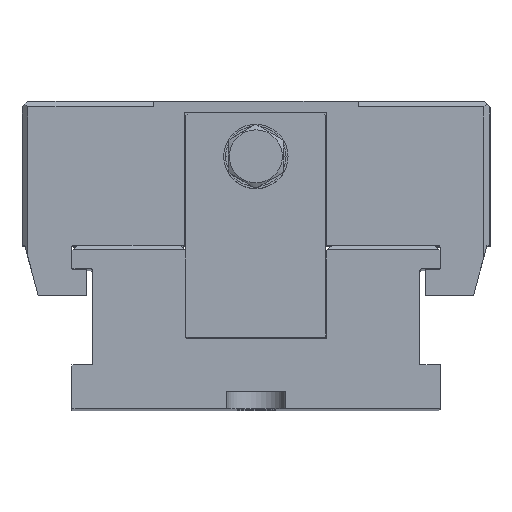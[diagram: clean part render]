
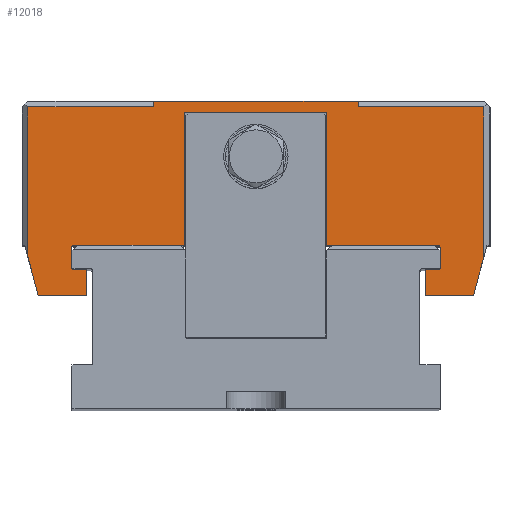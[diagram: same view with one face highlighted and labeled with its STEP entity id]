
A CAD part, top view. The second image highlights one B-rep face of the part: STEP entity #12018.
In plain terms, the highlighted planar face has unit normal (0, 0, 1) as drawn and (0, 0, -1) by its records, which use the part's own axes.
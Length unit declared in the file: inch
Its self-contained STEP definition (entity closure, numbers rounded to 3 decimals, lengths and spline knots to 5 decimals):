
#9185=DIRECTION('',(0.,1.,0.));
#9186=VECTOR('',#9185,0.0456);
#9187=CARTESIAN_POINT('',(0.02425,0.0319,-0.0585));
#9188=LINE('',#9187,#9186);
#9197=CARTESIAN_POINT('',(0.0625,0.0313,-0.0585));
#9198=DIRECTION('',(0.,0.,-1.));
#9199=DIRECTION('',(0.,1.,0.));
#9200=AXIS2_PLACEMENT_3D('',#9197,#9198,#9199);
#9202=CARTESIAN_POINT('',(0.0625,0.0243,-0.0585));
#9203=DIRECTION('',(0.,0.,-1.));
#9204=DIRECTION('',(1.,0.,0.));
#9205=AXIS2_PLACEMENT_3D('',#9202,#9203,#9204);
#9207=DIRECTION('',(-1.,0.,0.));
#9208=VECTOR('',#9207,0.0045);
#9209=CARTESIAN_POINT('',(0.0625,0.0238,-0.0585));
#9210=LINE('',#9209,#9208);
#9211=DIRECTION('',(0.259,0.966,0.));
#9212=VECTOR('',#9211,0.01374);
#9213=CARTESIAN_POINT('',(0.07444,0.0148,-0.0585));
#9214=LINE('',#9213,#9212);
#9215=DIRECTION('',(0.259,-0.966,0.));
#9216=VECTOR('',#9215,0.01374);
#9217=CARTESIAN_POINT('',(-0.078,0.02807,-0.0585));
#9218=LINE('',#9217,#9216);
#9219=CARTESIAN_POINT('',(-0.0625,0.0243,-0.0585));
#9220=DIRECTION('',(0.,0.,-1.));
#9221=DIRECTION('',(0.,-1.,0.));
#9222=AXIS2_PLACEMENT_3D('',#9219,#9220,#9221);
#9224=CARTESIAN_POINT('',(-0.0625,0.0313,-0.0585));
#9225=DIRECTION('',(0.,0.,-1.));
#9226=DIRECTION('',(-1.,0.,0.));
#9227=AXIS2_PLACEMENT_3D('',#9224,#9225,#9226);
#9229=DIRECTION('',(0.,1.,0.));
#9230=VECTOR('',#9229,0.0456);
#9231=CARTESIAN_POINT('',(-0.02425,0.0319,-0.0585));
#9232=LINE('',#9231,#9230);
#9233=DIRECTION('',(1.,0.,0.));
#9234=VECTOR('',#9233,0.0485);
#9235=CARTESIAN_POINT('',(-0.02425,0.0775,-0.0585));
#9236=LINE('',#9235,#9234);
#9237=DIRECTION('',(-1.,0.,0.));
#9238=VECTOR('',#9237,0.03375);
#9239=CARTESIAN_POINT('',(-0.02425,0.0319,-0.0585));
#9240=LINE('',#9239,#9238);
#9249=DIRECTION('',(-1.,0.,0.));
#9250=VECTOR('',#9249,0.03375);
#9251=CARTESIAN_POINT('',(0.058,0.0319,-0.0585));
#9252=LINE('',#9251,#9250);
#9307=DIRECTION('',(0.,-1.,0.));
#9308=VECTOR('',#9307,0.0001);
#9309=CARTESIAN_POINT('',(-0.058,0.0319,-0.0585));
#9310=LINE('',#9309,#9308);
#9324=DIRECTION('',(-1.,0.,0.));
#9325=VECTOR('',#9324,0.0045);
#9326=CARTESIAN_POINT('',(-0.058,0.0318,-0.0585));
#9327=LINE('',#9326,#9325);
#9446=DIRECTION('',(0.,-1.,0.));
#9447=VECTOR('',#9446,0.007);
#9448=CARTESIAN_POINT('',(-0.063,0.0313,-0.0585));
#9449=LINE('',#9448,#9447);
#9463=DIRECTION('',(1.,0.,0.));
#9464=VECTOR('',#9463,0.0045);
#9465=CARTESIAN_POINT('',(-0.0625,0.0238,-0.0585));
#9466=LINE('',#9465,#9464);
#9480=DIRECTION('',(0.,-1.,0.));
#9481=VECTOR('',#9480,0.009);
#9482=CARTESIAN_POINT('',(-0.058,0.0238,-0.0585));
#9483=LINE('',#9482,#9481);
#9488=DIRECTION('',(-1.,0.,0.));
#9489=VECTOR('',#9488,0.01644);
#9490=CARTESIAN_POINT('',(-0.058,0.0148,-0.0585));
#9491=LINE('',#9490,#9489);
#9508=DIRECTION('',(0.,1.,0.));
#9509=VECTOR('',#9508,0.05123);
#9510=CARTESIAN_POINT('',(-0.078,0.02807,-0.0585));
#9511=LINE('',#9510,#9509);
#9516=DIRECTION('',(1.,0.,0.));
#9517=VECTOR('',#9516,0.043);
#9518=CARTESIAN_POINT('',(-0.078,0.0793,-0.0585));
#9519=LINE('',#9518,#9517);
#9528=DIRECTION('',(0.,1.,0.));
#9529=VECTOR('',#9528,0.002);
#9530=CARTESIAN_POINT('',(-0.035,0.0793,-0.0585));
#9531=LINE('',#9530,#9529);
#9540=DIRECTION('',(1.,0.,0.));
#9541=VECTOR('',#9540,0.07);
#9542=CARTESIAN_POINT('',(-0.035,0.0813,-0.0585));
#9543=LINE('',#9542,#9541);
#9548=DIRECTION('',(0.,-1.,0.));
#9549=VECTOR('',#9548,0.002);
#9550=CARTESIAN_POINT('',(0.035,0.0813,-0.0585));
#9551=LINE('',#9550,#9549);
#9556=DIRECTION('',(1.,0.,0.));
#9557=VECTOR('',#9556,0.043);
#9558=CARTESIAN_POINT('',(0.035,0.0793,-0.0585));
#9559=LINE('',#9558,#9557);
#9568=DIRECTION('',(0.,-1.,0.));
#9569=VECTOR('',#9568,0.05123);
#9570=CARTESIAN_POINT('',(0.078,0.0793,-0.0585));
#9571=LINE('',#9570,#9569);
#9698=DIRECTION('',(0.,1.,0.));
#9699=VECTOR('',#9698,0.009);
#9700=CARTESIAN_POINT('',(0.058,0.0148,-0.0585));
#9701=LINE('',#9700,#9699);
#9718=DIRECTION('',(-1.,0.,0.));
#9719=VECTOR('',#9718,0.01644);
#9720=CARTESIAN_POINT('',(0.07444,0.0148,-0.0585));
#9721=LINE('',#9720,#9719);
#9823=DIRECTION('',(-1.,0.,0.));
#9824=VECTOR('',#9823,0.0045);
#9825=CARTESIAN_POINT('',(0.0625,0.0318,-0.0585));
#9826=LINE('',#9825,#9824);
#9844=DIRECTION('',(0.,1.,0.));
#9845=VECTOR('',#9844,0.007);
#9846=CARTESIAN_POINT('',(0.063,0.0243,-0.0585));
#9847=LINE('',#9846,#9845);
#9856=DIRECTION('',(0.,1.,0.));
#9857=VECTOR('',#9856,0.0001);
#9858=CARTESIAN_POINT('',(0.058,0.0318,-0.0585));
#9859=LINE('',#9858,#9857);
#11336=CARTESIAN_POINT('',(0.02425,0.0319,-0.0585));
#11337=CARTESIAN_POINT('',(0.02425,0.0775,-0.0585));
#11338=VERTEX_POINT('',#11336);
#11339=VERTEX_POINT('',#11337);
#11340=CARTESIAN_POINT('',(0.058,0.0319,-0.0585));
#11341=VERTEX_POINT('',#11340);
#11342=CARTESIAN_POINT('',(0.058,0.0318,-0.0585));
#11343=VERTEX_POINT('',#11342);
#11344=CARTESIAN_POINT('',(0.0625,0.0318,-0.0585));
#11345=VERTEX_POINT('',#11344);
#11346=CARTESIAN_POINT('',(0.063,0.0313,-0.0585));
#11347=VERTEX_POINT('',#11346);
#11348=CARTESIAN_POINT('',(0.063,0.0243,-0.0585));
#11349=VERTEX_POINT('',#11348);
#11350=CARTESIAN_POINT('',(0.0625,0.0238,-0.0585));
#11351=VERTEX_POINT('',#11350);
#11352=CARTESIAN_POINT('',(0.058,0.0238,-0.0585));
#11353=VERTEX_POINT('',#11352);
#11354=CARTESIAN_POINT('',(0.058,0.0148,-0.0585));
#11355=VERTEX_POINT('',#11354);
#11356=CARTESIAN_POINT('',(0.07444,0.0148,-0.0585));
#11357=VERTEX_POINT('',#11356);
#11358=CARTESIAN_POINT('',(0.078,0.02807,-0.0585));
#11359=VERTEX_POINT('',#11358);
#11360=CARTESIAN_POINT('',(0.078,0.0793,-0.0585));
#11361=VERTEX_POINT('',#11360);
#11362=CARTESIAN_POINT('',(0.035,0.0793,-0.0585));
#11363=VERTEX_POINT('',#11362);
#11364=CARTESIAN_POINT('',(0.035,0.0813,-0.0585));
#11365=VERTEX_POINT('',#11364);
#11366=CARTESIAN_POINT('',(-0.035,0.0813,-0.0585));
#11367=VERTEX_POINT('',#11366);
#11368=CARTESIAN_POINT('',(-0.035,0.0793,-0.0585));
#11369=VERTEX_POINT('',#11368);
#11370=CARTESIAN_POINT('',(-0.078,0.0793,-0.0585));
#11371=VERTEX_POINT('',#11370);
#11372=CARTESIAN_POINT('',(-0.078,0.02807,-0.0585));
#11373=VERTEX_POINT('',#11372);
#11374=CARTESIAN_POINT('',(-0.07444,0.0148,-0.0585));
#11375=VERTEX_POINT('',#11374);
#11376=CARTESIAN_POINT('',(-0.058,0.0148,-0.0585));
#11377=VERTEX_POINT('',#11376);
#11378=CARTESIAN_POINT('',(-0.058,0.0238,-0.0585));
#11379=VERTEX_POINT('',#11378);
#11380=CARTESIAN_POINT('',(-0.0625,0.0238,-0.0585));
#11381=VERTEX_POINT('',#11380);
#11382=CARTESIAN_POINT('',(-0.063,0.0243,-0.0585));
#11383=VERTEX_POINT('',#11382);
#11384=CARTESIAN_POINT('',(-0.063,0.0313,-0.0585));
#11385=VERTEX_POINT('',#11384);
#11386=CARTESIAN_POINT('',(-0.0625,0.0318,-0.0585));
#11387=VERTEX_POINT('',#11386);
#11388=CARTESIAN_POINT('',(-0.058,0.0318,-0.0585));
#11389=VERTEX_POINT('',#11388);
#11390=CARTESIAN_POINT('',(-0.058,0.0319,-0.0585));
#11391=VERTEX_POINT('',#11390);
#11392=CARTESIAN_POINT('',(-0.02425,0.0319,-0.0585));
#11393=VERTEX_POINT('',#11392);
#11394=CARTESIAN_POINT('',(-0.02425,0.0775,-0.0585));
#11395=VERTEX_POINT('',#11394);
#11952=CARTESIAN_POINT('',(0.,0.04805,-0.0585));
#11953=DIRECTION('',(0.,0.,-1.));
#11954=DIRECTION('',(1.,0.,0.));
#11955=AXIS2_PLACEMENT_3D('',#11952,#11953,#11954);
#11956=PLANE('',#11955);
#11957=ORIENTED_EDGE('',*,*,#11942,.F.);
#11959=ORIENTED_EDGE('',*,*,#11958,.F.);
#11961=ORIENTED_EDGE('',*,*,#11960,.F.);
#11963=ORIENTED_EDGE('',*,*,#11962,.F.);
#11965=ORIENTED_EDGE('',*,*,#11964,.T.);
#11967=ORIENTED_EDGE('',*,*,#11966,.F.);
#11969=ORIENTED_EDGE('',*,*,#11968,.T.);
#11971=ORIENTED_EDGE('',*,*,#11970,.T.);
#11973=ORIENTED_EDGE('',*,*,#11972,.F.);
#11975=ORIENTED_EDGE('',*,*,#11974,.F.);
#11977=ORIENTED_EDGE('',*,*,#11976,.T.);
#11979=ORIENTED_EDGE('',*,*,#11978,.F.);
#11981=ORIENTED_EDGE('',*,*,#11980,.F.);
#11983=ORIENTED_EDGE('',*,*,#11982,.F.);
#11985=ORIENTED_EDGE('',*,*,#11984,.F.);
#11987=ORIENTED_EDGE('',*,*,#11986,.F.);
#11989=ORIENTED_EDGE('',*,*,#11988,.F.);
#11991=ORIENTED_EDGE('',*,*,#11990,.F.);
#11993=ORIENTED_EDGE('',*,*,#11992,.T.);
#11995=ORIENTED_EDGE('',*,*,#11994,.F.);
#11997=ORIENTED_EDGE('',*,*,#11996,.F.);
#11999=ORIENTED_EDGE('',*,*,#11998,.F.);
#12001=ORIENTED_EDGE('',*,*,#12000,.T.);
#12003=ORIENTED_EDGE('',*,*,#12002,.F.);
#12005=ORIENTED_EDGE('',*,*,#12004,.T.);
#12007=ORIENTED_EDGE('',*,*,#12006,.F.);
#12009=ORIENTED_EDGE('',*,*,#12008,.F.);
#12011=ORIENTED_EDGE('',*,*,#12010,.F.);
#12013=ORIENTED_EDGE('',*,*,#12012,.T.);
#12015=ORIENTED_EDGE('',*,*,#12014,.T.);
#12016=EDGE_LOOP('',(#11957,#11959,#11961,#11963,#11965,#11967,#11969,#11971,
#11973,#11975,#11977,#11979,#11981,#11983,#11985,#11987,#11989,#11991,#11993,
#11995,#11997,#11999,#12001,#12003,#12005,#12007,#12009,#12011,#12013,#12015));
#12017=FACE_OUTER_BOUND('',#12016,.F.);
#12018=ADVANCED_FACE('',(#12017),#11956,.T.);
#9201=CIRCLE('',#9200,0.0005);
#9206=CIRCLE('',#9205,0.0005);
#9223=CIRCLE('',#9222,0.0005);
#9228=CIRCLE('',#9227,0.0005);
#11942=EDGE_CURVE('',#11338,#11339,#9188,.T.);
#11958=EDGE_CURVE('',#11341,#11338,#9252,.T.);
#11960=EDGE_CURVE('',#11343,#11341,#9859,.T.);
#11962=EDGE_CURVE('',#11345,#11343,#9826,.T.);
#11964=EDGE_CURVE('',#11345,#11347,#9201,.T.);
#11966=EDGE_CURVE('',#11349,#11347,#9847,.T.);
#11968=EDGE_CURVE('',#11349,#11351,#9206,.T.);
#11970=EDGE_CURVE('',#11351,#11353,#9210,.T.);
#11972=EDGE_CURVE('',#11355,#11353,#9701,.T.);
#11974=EDGE_CURVE('',#11357,#11355,#9721,.T.);
#11976=EDGE_CURVE('',#11357,#11359,#9214,.T.);
#11978=EDGE_CURVE('',#11361,#11359,#9571,.T.);
#11980=EDGE_CURVE('',#11363,#11361,#9559,.T.);
#11982=EDGE_CURVE('',#11365,#11363,#9551,.T.);
#11984=EDGE_CURVE('',#11367,#11365,#9543,.T.);
#11986=EDGE_CURVE('',#11369,#11367,#9531,.T.);
#11988=EDGE_CURVE('',#11371,#11369,#9519,.T.);
#11990=EDGE_CURVE('',#11373,#11371,#9511,.T.);
#11992=EDGE_CURVE('',#11373,#11375,#9218,.T.);
#11994=EDGE_CURVE('',#11377,#11375,#9491,.T.);
#11996=EDGE_CURVE('',#11379,#11377,#9483,.T.);
#11998=EDGE_CURVE('',#11381,#11379,#9466,.T.);
#12000=EDGE_CURVE('',#11381,#11383,#9223,.T.);
#12002=EDGE_CURVE('',#11385,#11383,#9449,.T.);
#12004=EDGE_CURVE('',#11385,#11387,#9228,.T.);
#12006=EDGE_CURVE('',#11389,#11387,#9327,.T.);
#12008=EDGE_CURVE('',#11391,#11389,#9310,.T.);
#12010=EDGE_CURVE('',#11393,#11391,#9240,.T.);
#12012=EDGE_CURVE('',#11393,#11395,#9232,.T.);
#12014=EDGE_CURVE('',#11395,#11339,#9236,.T.);
